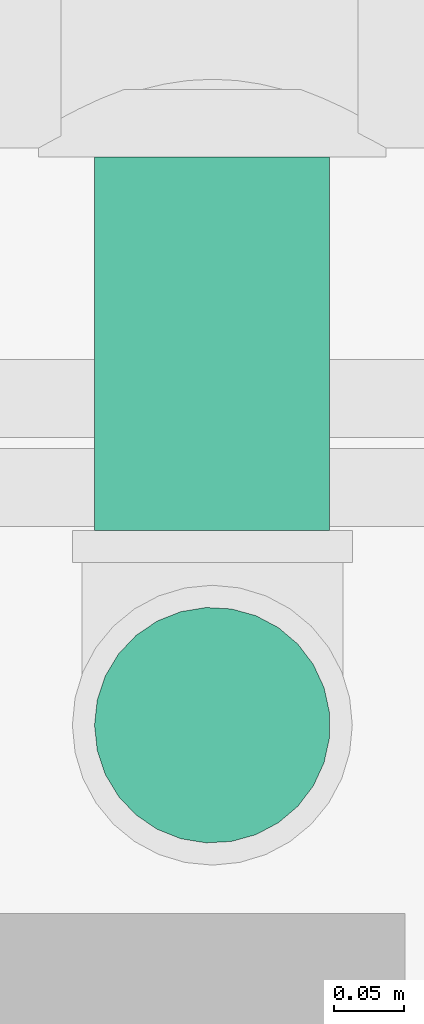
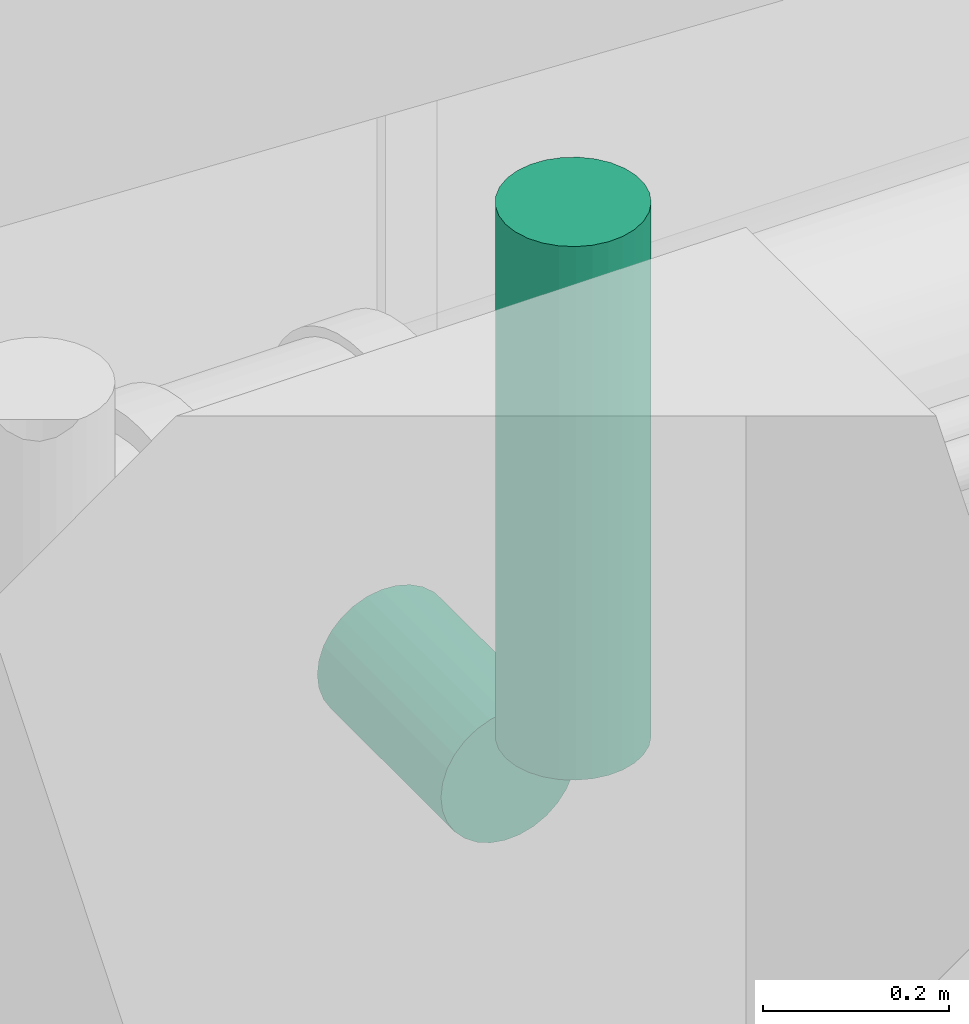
# One storey, part 76 of 108: 2 pipe segments.
"""IFC4 building model written with IfcOpenShell, lengths in feet."""

from ifc_helpers import new_model, entity, si_unit, converted_unit, derived_unit, direction, frame, frame_2d, origin, place, context, subcontext, project, spatial, circle, extrude, type_object, element, save


model = new_model("IFC4")

# Units and contexts
model_context = context("Model", 3, precision=0.0001, world=origin(), true_north=direction((6.12303176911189e-17, 1.0)))
body_context = subcontext(model_context, "Body", "Model", "MODEL_VIEW")
ifc_project = project(units=[converted_unit("LENGTHUNIT", "FOOT", entity("IfcRatioMeasure", 0.3048), si_unit("LENGTHUNIT", "METRE"), dimensions=[1, 0, 0, 0, 0, 0, 0]), converted_unit("AREAUNIT", "SQUARE FOOT", entity("IfcRatioMeasure", 0.09290304), si_unit("AREAUNIT", "SQUARE_METRE"), dimensions=[2, 0, 0, 0, 0, 0, 0]), converted_unit("VOLUMEUNIT", "CUBIC FOOT", entity("IfcRatioMeasure", 0.028316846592), si_unit("VOLUMEUNIT", "CUBIC_METRE"), dimensions=[3, 0, 0, 0, 0, 0, 0]), converted_unit("PLANEANGLEUNIT", "DEGREE", entity("IfcRatioMeasure", 0.0174532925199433), si_unit("PLANEANGLEUNIT", "RADIAN"), dimensions=[0, 0, 0, 0, 0, 0, 0]), si_unit("MASSUNIT", "GRAM", prefix="KILO"), derived_unit("MASSDENSITYUNIT", [(si_unit("MASSUNIT", "GRAM", prefix="KILO"), 1), (si_unit("LENGTHUNIT", "METRE"), -3)]), si_unit("TIMEUNIT", "SECOND"), si_unit("FREQUENCYUNIT", "HERTZ"), si_unit("THERMODYNAMICTEMPERATUREUNIT", "DEGREE_CELSIUS"), derived_unit("THERMALTRANSMITTANCEUNIT", [(si_unit("MASSUNIT", "GRAM", prefix="KILO"), 1), (si_unit("THERMODYNAMICTEMPERATUREUNIT", "KELVIN"), -1), (si_unit("TIMEUNIT", "SECOND"), -3)]), derived_unit("VOLUMETRICFLOWRATEUNIT", [(si_unit("LENGTHUNIT", "METRE"), 3), (si_unit("TIMEUNIT", "SECOND"), -1)]), si_unit("ELECTRICCURRENTUNIT", "AMPERE"), si_unit("ELECTRICVOLTAGEUNIT", "VOLT"), si_unit("POWERUNIT", "WATT"), si_unit("FORCEUNIT", "NEWTON"), si_unit("ILLUMINANCEUNIT", "LUX"), si_unit("LUMINOUSFLUXUNIT", "LUMEN"), si_unit("LUMINOUSINTENSITYUNIT", "CANDELA"), derived_unit("USERDEFINED", [(si_unit("MASSUNIT", "GRAM", prefix="KILO"), -1), (si_unit("LENGTHUNIT", "METRE"), -2), (si_unit("TIMEUNIT", "SECOND"), 3), (si_unit("LUMINOUSFLUXUNIT", "LUMEN"), 1)]), derived_unit("LINEARVELOCITYUNIT", [(si_unit("LENGTHUNIT", "METRE"), 1), (si_unit("TIMEUNIT", "SECOND"), -1)]), si_unit("PRESSUREUNIT", "PASCAL"), derived_unit("USERDEFINED", [(si_unit("LENGTHUNIT", "METRE"), -2), (si_unit("MASSUNIT", "GRAM", prefix="KILO"), 1), (si_unit("TIMEUNIT", "SECOND"), -2)])], contexts=[model_context])

# Site, building, storey
site_placement = place(None, origin())
site = spatial("IfcSite", under=ifc_project, at=site_placement, Name="Default", CompositionType="ELEMENT")
building_placement = place(site_placement, origin())
building = spatial("IfcBuilding", under=site, at=building_placement, CompositionType="ELEMENT")
storey_placement = place(building_placement, frame((0.0, 0.0, 168.0)))
storey = spatial("IfcBuildingStorey", under=building, at=storey_placement, Name="Level 15", CompositionType="ELEMENT", Elevation=168.0)

# Pipe segments
pipe_segment_type = type_object("IfcPipeSegmentType", Name="Pipe Types:Hydronic", PredefinedType="NOTDEFINED")
pipe_segment_1_placement = place(storey_placement, frame((1.47006469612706, -19.1021378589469, 9.78127604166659)))
element("IfcPipeSegment", 1, at=pipe_segment_1_placement, inside=storey, type_object=pipe_segment_type, Name="Pipe Types:Hydronic", ObjectType="Pipe Types:Hydronic", PredefinedType="NOTDEFINED", context=body_context, shape_type="SweptSolid", body=[
    extrude(circle(Radius=0.276041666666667, at=frame_2d((6.66133814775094e-16, 3.5527136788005e-15), x_axis=(1.0, 0.0))), frame((0.281275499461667, 0.281275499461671, 0.0), z_axis=(0.0, 0.0, 1.0), x_axis=(-1.0, 0.0, 0.0)), (0.0, 0.0, 1.0), 2.30205729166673),
])
pipe_segment_2_placement = place(storey_placement, frame((1.47006469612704, -18.3647555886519, 9.05205783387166)))
element("IfcPipeSegment", 2, at=pipe_segment_2_placement, inside=storey, type_object=pipe_segment_type, Name="Pipe Types:Hydronic", ObjectType="Pipe Types:Hydronic", PredefinedType="NOTDEFINED", context=body_context, shape_type="SweptSolid", body=[
    extrude(circle(Radius=0.276041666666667, at=frame_2d((7.7715611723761e-15, 0.0), x_axis=(1.0, 0.0))), frame((0.281275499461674, 0.0, 0.281275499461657), z_axis=(0.0, 1.0, 0.0), x_axis=(-1.0, 0.0, 0.0)), (0.0, 0.0, 1.0), 0.874526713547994),
])

save(model, "model.ifc")
